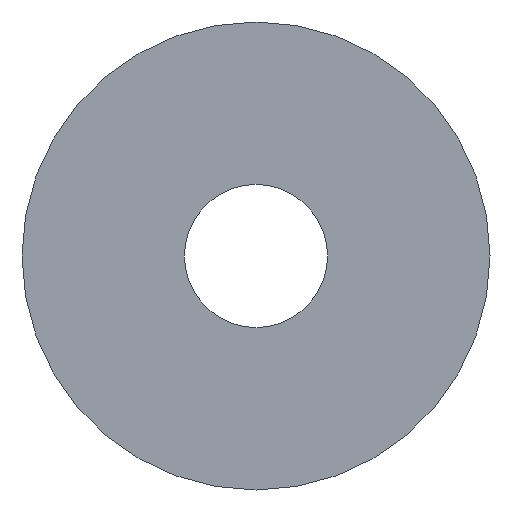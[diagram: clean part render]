
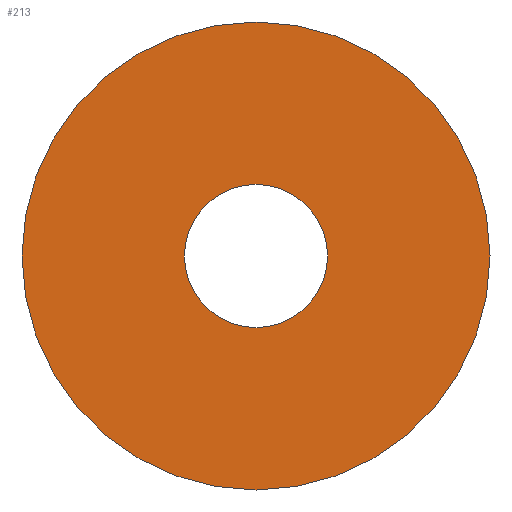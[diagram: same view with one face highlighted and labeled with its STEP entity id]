
A CAD part, front view. The second image highlights one B-rep face of the part: STEP entity #213.
In plain terms, the highlighted planar face has unit normal (0, -1, 0).
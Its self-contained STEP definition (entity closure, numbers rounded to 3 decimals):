
#43 = CONICAL_SURFACE('',#44,8.5,0.855);
#44 = AXIS2_PLACEMENT_3D('',#45,#46,#47);
#45 = CARTESIAN_POINT('',(0.,-2.5,0.));
#46 = DIRECTION('',(0.,-1.,0.));
#47 = DIRECTION('',(1.,0.,-0.));
#109 = VERTEX_POINT('',#110);
#110 = CARTESIAN_POINT('',(8.5,-2.5,0.));
#131 = EDGE_CURVE('',#109,#109,#132,.T.);
#132 = SURFACE_CURVE('',#133,(#138,#145),.PCURVE_S1.);
#133 = CIRCLE('',#134,8.5);
#134 = AXIS2_PLACEMENT_3D('',#135,#136,#137);
#135 = CARTESIAN_POINT('',(0.,-2.5,0.));
#136 = DIRECTION('',(0.,1.,0.));
#137 = DIRECTION('',(1.,0.,-0.));
#138 = PCURVE('',#43,#139);
#139 = DEFINITIONAL_REPRESENTATION('',(#140),#144);
#140 = LINE('',#141,#142);
#141 = CARTESIAN_POINT('',(-0.,-0.));
#142 = VECTOR('',#143,1.);
#143 = DIRECTION('',(-1.,-0.));
#144 = ( GEOMETRIC_REPRESENTATION_CONTEXT(2) 
PARAMETRIC_REPRESENTATION_CONTEXT() REPRESENTATION_CONTEXT('2D SPACE',''
  ) );
#145 = PCURVE('',#146,#151);
#146 = PLANE('',#147);
#147 = AXIS2_PLACEMENT_3D('',#148,#149,#150);
#148 = CARTESIAN_POINT('',(0.,-2.5,0.));
#149 = DIRECTION('',(0.,1.,0.));
#150 = DIRECTION('',(1.,0.,-0.));
#151 = DEFINITIONAL_REPRESENTATION('',(#152),#156);
#152 = CIRCLE('',#153,8.5);
#153 = AXIS2_PLACEMENT_2D('',#154,#155);
#154 = CARTESIAN_POINT('',(0.,0.));
#155 = DIRECTION('',(1.,0.));
#156 = ( GEOMETRIC_REPRESENTATION_CONTEXT(2) 
PARAMETRIC_REPRESENTATION_CONTEXT() REPRESENTATION_CONTEXT('2D SPACE',''
  ) );
#213 = ADVANCED_FACE('',(#214,#217),#146,.F.);
#214 = FACE_BOUND('',#215,.F.);
#215 = EDGE_LOOP('',(#216));
#216 = ORIENTED_EDGE('',*,*,#131,.T.);
#217 = FACE_BOUND('',#218,.F.);
#218 = EDGE_LOOP('',(#219));
#219 = ORIENTED_EDGE('',*,*,#220,.T.);
#220 = EDGE_CURVE('',#221,#221,#223,.T.);
#221 = VERTEX_POINT('',#222);
#222 = CARTESIAN_POINT('',(2.6,-2.5,0.));
#223 = SURFACE_CURVE('',#224,(#229,#240),.PCURVE_S1.);
#224 = CIRCLE('',#225,2.6);
#225 = AXIS2_PLACEMENT_3D('',#226,#227,#228);
#226 = CARTESIAN_POINT('',(0.,-2.5,0.));
#227 = DIRECTION('',(0.,-1.,0.));
#228 = DIRECTION('',(1.,0.,0.));
#229 = PCURVE('',#146,#230);
#230 = DEFINITIONAL_REPRESENTATION('',(#231),#239);
#231 = ( BOUNDED_CURVE() B_SPLINE_CURVE(2,(#232,#233,#234,#235,#236,#237
,#238),.UNSPECIFIED.,.T.,.F.) B_SPLINE_CURVE_WITH_KNOTS((1,2,2,2,2,1),(
    -2.094,0.,2.094,4.189,6.283,
8.378),.UNSPECIFIED.) CURVE() GEOMETRIC_REPRESENTATION_ITEM() 
RATIONAL_B_SPLINE_CURVE((1.,0.5,1.,0.5,1.,0.5,1.)) REPRESENTATION_ITEM(
  '') );
#232 = CARTESIAN_POINT('',(2.6,0.));
#233 = CARTESIAN_POINT('',(2.6,-4.503));
#234 = CARTESIAN_POINT('',(-1.3,-2.252));
#235 = CARTESIAN_POINT('',(-5.2,0.));
#236 = CARTESIAN_POINT('',(-1.3,2.252));
#237 = CARTESIAN_POINT('',(2.6,4.503));
#238 = CARTESIAN_POINT('',(2.6,0.));
#239 = ( GEOMETRIC_REPRESENTATION_CONTEXT(2) 
PARAMETRIC_REPRESENTATION_CONTEXT() REPRESENTATION_CONTEXT('2D SPACE',''
  ) );
#240 = PCURVE('',#241,#246);
#241 = CYLINDRICAL_SURFACE('',#242,2.6);
#242 = AXIS2_PLACEMENT_3D('',#243,#244,#245);
#243 = CARTESIAN_POINT('',(0.,4.,0.));
#244 = DIRECTION('',(0.,-1.,0.));
#245 = DIRECTION('',(1.,0.,0.));
#246 = DEFINITIONAL_REPRESENTATION('',(#247),#251);
#247 = LINE('',#248,#249);
#248 = CARTESIAN_POINT('',(0.,6.5));
#249 = VECTOR('',#250,1.);
#250 = DIRECTION('',(1.,0.));
#251 = ( GEOMETRIC_REPRESENTATION_CONTEXT(2) 
PARAMETRIC_REPRESENTATION_CONTEXT() REPRESENTATION_CONTEXT('2D SPACE',''
  ) );
